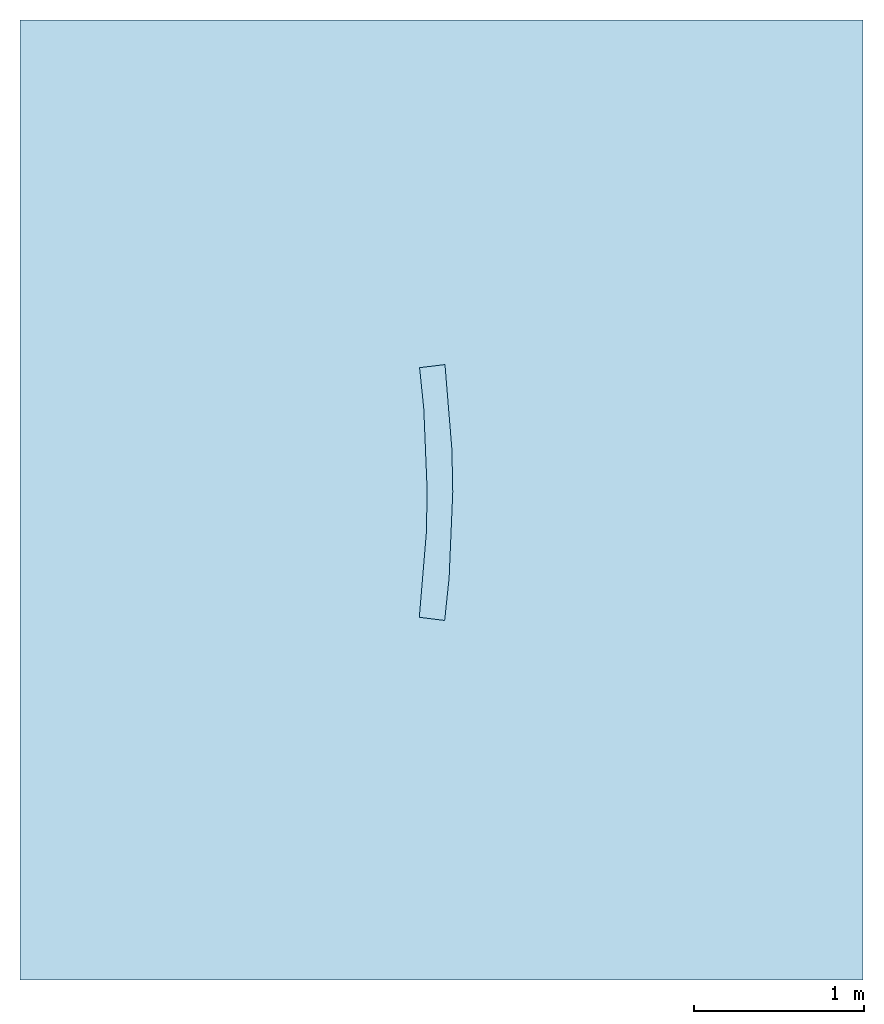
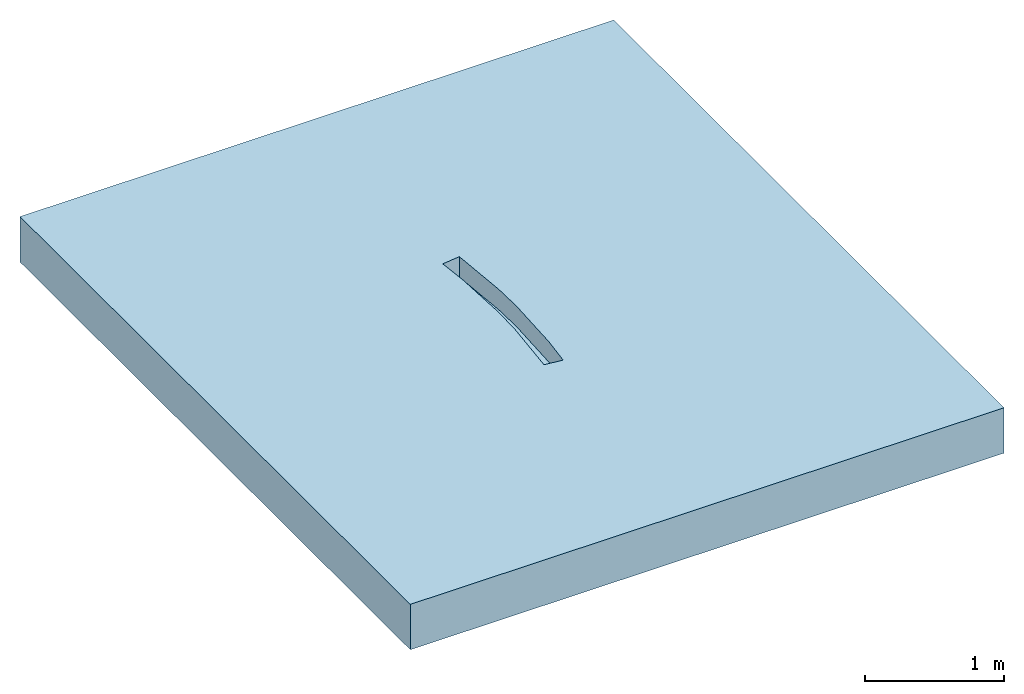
# One storey: 1 slab, 9 openings.
"""IFC2X3 building model written with IfcOpenShell, lengths in millimetres."""

import ifcopenshell
import ifcopenshell.guid

model = None  # the IFC model being written
_history = None  # IfcOwnerHistory: only IFC2X3 demands one
_inside = {}  # id of a spatial element -> (the spatial element, [elements in it])
_under = {}  # id of a project, library or spatial element -> (it, [spatial elements below it])
_declared = {}  # id of a project -> (the project, [libraries it declares])
_typed = {}  # id of a type object -> (the type object, [elements of that type])
_made_of = {}  # id of a material, layer set ... -> (it, [elements and type objects made of it])


def new_model(schema):
    """Start an empty IFC model of exactly this schema.

    Asked for "IFC4X3", IfcOpenShell would pick the latest addendum, in which some entities
    have other attributes; the version numbers below select the first issue.
    IFC2X3 requires an IfcOwnerHistory on every rooted entity: one is made here for all.
    """
    global model, _history
    if schema == "IFC4X3":
        model = ifcopenshell.file(schema_version=(4, 3, 0, 0))
    else:
        model = ifcopenshell.file(schema=schema)
    _inside.clear()
    _under.clear()
    _declared.clear()
    _typed.clear()
    _made_of.clear()
    _history = None
    if model.schema == "IFC2X3":
        org = make("IfcOrganization", Name="unknown")
        user = make(
            "IfcPersonAndOrganization",
            ThePerson=make("IfcPerson", FamilyName="unknown"),
            TheOrganization=org,
        )
        app = make(
            "IfcApplication",
            ApplicationDeveloper=org,
            Version="unknown",
            ApplicationFullName="unknown",
            ApplicationIdentifier="unknown",
        )
        _history = make(
            "IfcOwnerHistory",
            OwningUser=user,
            OwningApplication=app,
            ChangeAction="ADDED",
            CreationDate=0,
        )
    return model


def make(cls, **values):
    """One entity of the class cls with the attributes given. An attribute that is None is left unset."""
    return model.create_entity(
        cls, **{name: value for name, value in values.items() if value is not None}
    )


def entity(cls, *values):
    """Any entity or typed value of the class cls, its attributes in the order of the schema. None: left unset."""
    e = model.create_entity(cls)
    for i, value in enumerate(values):
        if value is not None:
            e[i] = value
    return e


def rooted(cls, **values):
    """An entity with a GlobalId (a new one), such as an element, a storey or a relation."""
    return make(cls, GlobalId=ifcopenshell.guid.new(), OwnerHistory=_history, **values)


def si_unit(unit_type, name, prefix=None):
    """IfcSIUnit, for example si_unit("LENGTHUNIT", "METRE", prefix="MILLI")."""
    return make("IfcSIUnit", UnitType=unit_type, Prefix=prefix, Name=name)


def converted_unit(unit_type, name, factor, base, dimensions=None, offset=None):
    """IfcConversionBasedUnit, such as the inch: factor (a typed value) times the base unit."""
    return make(
        "IfcConversionBasedUnit"
        if offset is None
        else "IfcConversionBasedUnitWithOffset",
        ConversionOffset=offset,
        Dimensions=None
        if dimensions is None
        else entity("IfcDimensionalExponents", *dimensions),
        UnitType=unit_type,
        Name=name,
        ConversionFactor=make(
            "IfcMeasureWithUnit", ValueComponent=factor, UnitComponent=base
        ),
    )


def assignment(units):
    """IfcUnitAssignment: the units of a project."""
    return None if units is None else make("IfcUnitAssignment", Units=units)


def point(xyz):
    """IfcCartesianPoint."""
    return None if xyz is None else make("IfcCartesianPoint", Coordinates=xyz)


def direction(xyz):
    """IfcDirection."""
    return None if xyz is None else make("IfcDirection", DirectionRatios=xyz)


def frame(location, z_axis=None, x_axis=None):
    """IfcAxis2Placement3D, a coordinate frame: its origin and axes. An axis left out is left unset."""
    return make(
        "IfcAxis2Placement3D",
        Location=point(location),
        Axis=direction(z_axis),
        RefDirection=direction(x_axis),
    )


def frame_2d(location, x_axis=None):
    """IfcAxis2Placement2D, a coordinate frame in the plane: its origin and x axis."""
    return make(
        "IfcAxis2Placement2D", Location=point(location), RefDirection=direction(x_axis)
    )


def origin():
    """The frame at (0, 0, 0) with its axes left unset."""
    return frame((0.0, 0.0, 0.0))


def origin_2d_with_axis():
    """The frame at (0, 0) in the plane with the x axis (1, 0) written out."""
    return frame_2d((0.0, 0.0), x_axis=(1.0, 0.0))


def place(relative_to, where):
    """IfcLocalPlacement: puts the frame where relative to a parent placement (None: the world)."""
    return make(
        "IfcLocalPlacement", PlacementRelTo=relative_to, RelativePlacement=where
    )


def context(
    kind, dimensions, precision=None, world=None, true_north=None, identifier=None
):
    """IfcGeometricRepresentationContext, for example the 3D "Model" context."""
    return make(
        "IfcGeometricRepresentationContext",
        ContextIdentifier=identifier,
        ContextType=kind,
        CoordinateSpaceDimension=dimensions,
        Precision=precision,
        WorldCoordinateSystem=world,
        TrueNorth=true_north,
    )


def subcontext(parent, identifier, kind, view, scale=None):
    """IfcGeometricRepresentationSubContext, for example "Body" below "Model"."""
    return make(
        "IfcGeometricRepresentationSubContext",
        ContextIdentifier=identifier,
        ContextType=kind,
        ParentContext=parent,
        TargetScale=scale,
        TargetView=view,
    )


def project(units=None, contexts=None):
    """IfcProject with its units and contexts."""
    return rooted(
        "IfcProject",
        Name="project",
        RepresentationContexts=contexts,
        UnitsInContext=assignment(units),
    )


def spatial(cls, under=None, at=None, **own):
    """A site, building, storey or space (cls), placed at a placement, below another one or the project."""
    s = rooted(cls, ObjectPlacement=at, **own)
    if under is not None:
        _under.setdefault(under.id(), (under, []))[1].append(s)
    return s


def polyline(points):
    """IfcPolyline through the points."""
    return make("IfcPolyline", Points=[point(p) for p in points])


def circle_curve(where, radius):
    """IfcCircle in the frame where."""
    return make("IfcCircle", Position=where, Radius=radius)


def parameter(value):
    """IfcParameterValue: where a trimmed curve begins or ends, as a parameter of its basis curve."""
    return model.create_entity("IfcParameterValue", value)


def trimmed(basis, trim1, trim2, sense, master):
    """IfcTrimmedCurve: the piece of a basis curve between two trims."""
    return make(
        "IfcTrimmedCurve",
        BasisCurve=basis,
        Trim1=trim1,
        Trim2=trim2,
        SenseAgreement=sense,
        MasterRepresentation=master,
    )


def segment(curve, same_sense, transition):
    """IfcCompositeCurveSegment."""
    return make(
        "IfcCompositeCurveSegment",
        Transition=transition,
        SameSense=same_sense,
        ParentCurve=curve,
    )


def composite_curve(segments, self_intersect=None):
    """IfcCompositeCurve: segments joined end to end."""
    return make("IfcCompositeCurve", Segments=segments, SelfIntersect=self_intersect)


def profile(cls, at=None, kind="AREA", **sizes):
    """A parametric profile (cls). Its sizes go by their IFC names, for example OverallWidth=200.0."""
    return make(cls, ProfileType=kind, Position=at, **sizes)


def rectangle(**sizes):
    """IfcRectangleProfileDef."""
    return profile("IfcRectangleProfileDef", **sizes)


def outline(outer, holes=None, kind="AREA"):
    """IfcArbitraryClosedProfileDef: a profile drawn as a closed curve; with holes, ...WithVoids."""
    if holes is None:
        return make("IfcArbitraryClosedProfileDef", ProfileType=kind, OuterCurve=outer)
    return make(
        "IfcArbitraryProfileDefWithVoids",
        ProfileType=kind,
        OuterCurve=outer,
        InnerCurves=holes,
    )


def extrude(swept, where, along, depth):
    """IfcExtrudedAreaSolid: the profile swept, set in the frame where, extruded along a direction by depth."""
    return make(
        "IfcExtrudedAreaSolid",
        SweptArea=swept,
        Position=where,
        ExtrudedDirection=direction(along),
        Depth=depth,
    )


def shape(context_of_items, identifier, shape_type, items):
    """IfcShapeRepresentation: the items that make up one representation, for example the "Body"."""
    return make(
        "IfcShapeRepresentation",
        ContextOfItems=context_of_items,
        RepresentationIdentifier=identifier,
        RepresentationType=shape_type,
        Items=items,
    )


def material(Name=None, Category=None):
    """IfcMaterial."""
    return make("IfcMaterial", Name=Name, Category=Category)


def layer(
    of_material, thickness, ventilated=None, Name=None, Category=None, Priority=None
):
    """IfcMaterialLayer: one layer of a wall or slab, of a material (None: an air gap)."""
    return make(
        "IfcMaterialLayer",
        Material=of_material,
        LayerThickness=thickness,
        IsVentilated=ventilated,
        Name=Name,
        Category=Category,
        Priority=Priority,
    )


def layer_set(layers, Name=None):
    """IfcMaterialLayerSet."""
    return make("IfcMaterialLayerSet", MaterialLayers=layers, LayerSetName=Name)


def layer_usage(for_layer_set, set_direction, sense, offset, extent=None):
    """IfcMaterialLayerSetUsage: how a layer set lies in its element."""
    return make(
        "IfcMaterialLayerSetUsage",
        ForLayerSet=for_layer_set,
        LayerSetDirection=set_direction,
        DirectionSense=sense,
        OffsetFromReferenceLine=offset,
        ReferenceExtent=extent,
    )


def made_of(thing, what):
    """Note that an element or type object is made of a material, layer set ...; save() writes the relation."""
    if what is not None:
        _made_of.setdefault(what.id(), (what, []))[1].append(thing)
    return thing


def element(
    cls,
    number,
    at=None,
    inside=None,
    cuts=None,
    type_object=None,
    material=None,
    context=None,
    identifier="Body",
    shape_type=None,
    held_by="IfcProductDefinitionShape",
    body=None,
    shapes=None,
    **own,
):
    """One element of the class cls, such as IfcWall. Its Tag is "e" and its number.

    at: its placement. inside: the storey or other place that contains it. cuts: it is an
    opening in that element (IfcRelVoidsElement). A single representation is given by context,
    identifier, shape_type and body (its items); several are given by shapes. held_by: the class
    of the entity that holds the representations. save() writes the other relations.
    """
    e = rooted(cls, Tag="e%d" % number, ObjectPlacement=at, **own)
    if body is not None:
        shapes = [shape(context, identifier, shape_type, body)]
    if shapes is not None:
        e.Representation = make(held_by, Representations=shapes)
    if inside is not None:
        _inside.setdefault(inside.id(), (inside, []))[1].append(e)
    if cuts is not None:
        rooted(
            "IfcRelVoidsElement", RelatingBuildingElement=cuts, RelatedOpeningElement=e
        )
    if type_object is not None:
        _typed.setdefault(type_object.id(), (type_object, []))[1].append(e)
    return made_of(e, material)


def aggregate(whole, parts):
    """IfcRelAggregates: a whole, such as a stair, and the parts it consists of."""
    return rooted("IfcRelAggregates", RelatingObject=whole, RelatedObjects=parts)


def save(model, path):
    """Write the relations noted so far, then the file.

    IfcRelAggregates (storeys below a building ...), IfcRelContainedInSpatialStructure (elements
    in a storey), IfcRelDefinesByType, IfcRelAssociatesMaterial and IfcRelDeclares: one each for
    every whole, place, type object, material and project.
    """
    for whole, parts in _under.values():
        aggregate(whole, parts)
    for where, things in _inside.values():
        rooted(
            "IfcRelContainedInSpatialStructure",
            RelatedElements=things,
            RelatingStructure=where,
        )
    for kind, things in _typed.values():
        rooted("IfcRelDefinesByType", RelatedObjects=things, RelatingType=kind)
    for what, things in _made_of.values():
        rooted("IfcRelAssociatesMaterial", RelatedObjects=things, RelatingMaterial=what)
    for by, libraries in _declared.values():
        rooted("IfcRelDeclares", RelatingContext=by, RelatedDefinitions=libraries)
    model.write(path)


model = new_model("IFC2X3")

# Units and contexts
model_context = context("Model", 3, precision=1e-06, world=origin(), true_north=direction((2.0, 6.12303176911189e-17, 1.0)))
context_of_model = context(None, 3, precision=1e-06, world=origin(), true_north=direction((2.0, 6.12303176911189e-17, 1.0)))
body_context = subcontext(model_context, "Body", "Model", "MODEL_VIEW")
ifc_project = project(units=[si_unit("LENGTHUNIT", "METRE", prefix="MILLI"), si_unit("AREAUNIT", "SQUARE_METRE", prefix="MILLI"), si_unit("VOLUMEUNIT", "CUBIC_METRE", prefix="MILLI"), converted_unit("PLANEANGLEUNIT", "DEGREE", entity("IfcRatioMeasure", 0.0174532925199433), si_unit("PLANEANGLEUNIT", "RADIAN"), dimensions=[0, 0, 0, 0, 0, 0, 0]), si_unit("TIMEUNIT", "SECOND")], contexts=[model_context, context_of_model])

# Site, building, storey
site_placement = place(None, origin())
site = spatial("IfcSite", under=ifc_project, at=site_placement, Name="Default", CompositionType="ELEMENT")
building_placement = place(site_placement, origin())
building = spatial("IfcBuilding", under=site, at=building_placement, CompositionType="ELEMENT")
storey_placement = place(building_placement, origin())
storey = spatial("IfcBuildingStorey", under=building, at=storey_placement, Name="Level 1", CompositionType="ELEMENT", Elevation=0.0)

# Slab, openings
ifc_material = material(Name="Default Floor")
ifc_layer = layer(ifc_material, 400.0)
ifc_layer_set = layer_set([ifc_layer], Name="Floor:Generic Floor - 400mm")
ifc_layer_usage = layer_usage(ifc_layer_set, "AXIS3", "POSITIVE", 0.0)
slab_placement = place(storey_placement, frame((-6426.51252910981, -8304.1683846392, -400.0)))
slab = element("IfcSlab", 1, at=slab_placement, inside=storey, material=ifc_layer_usage, Name="Floor:Generic Floor - 400mm", ObjectType="Floor:Generic Floor - 400mm", PredefinedType="FLOOR", context=body_context, shape_type="SweptSolid", body=[
    extrude(rectangle(XDim=5632.29114211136, YDim=4946.28644627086, at=frame_2d((0.0, 0.0), x_axis=(0.0, -1.0))), frame((2473.14322313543, 2816.14557105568, 400.0), z_axis=(0.0, 0.0, -1.0), x_axis=(-1.0, 0.0, 0.0)), (0.0, 0.0, 1.0), 400.0),
])
opening_1_placement = place(slab_placement, origin())
element("IfcOpeningElement", 2, at=opening_1_placement, cuts=slab, ObjectType="Recess", context=body_context, shape_type="SweptSolid", body=[
    extrude(outline(polyline([(0.345136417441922, -99.5859028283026), (250.059069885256, -99.5859028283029), (748.457483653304, -69.1913565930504), (732.85134429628, 81.6537526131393), (490.588397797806, 61.9859364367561), (4.67362464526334, 52.1541665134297), (-241.186092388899, 62.6944521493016), (-730.579325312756, 113.956421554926), (-752.634468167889, -36.3625203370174), (-502.575170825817, -67.7190466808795), (0.345136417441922, -99.5859028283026)])), frame((2389.94728480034, 2876.28426448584, -2670.0), z_axis=(0.0, 0.0, 1.0), x_axis=(0.0217915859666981, -0.999762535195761, 0.0)), (0.0, 0.0, 1.0), 9.99999999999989),
])
opening_2_placement = place(slab_placement, origin())
element("IfcOpeningElement", 3, at=opening_2_placement, cuts=slab, ObjectType="Recess", context=body_context, shape_type="SweptSolid", body=[
    extrude(outline(composite_curve([segment(polyline([(-203.334382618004, -101.667191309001), (101.667191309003, -101.667191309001)]), True, "CONTINUOUS"), segment(polyline([(101.667191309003, -101.667191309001), (101.667191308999, 203.334382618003)]), True, "CONTINUOUS"), segment(trimmed(circle_curve(frame_2d((101.667191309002, -101.667191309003), x_axis=(0.0, -1.0)), 305.001573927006), [parameter(180.0)], [parameter(270.0)], True, "PARAMETER"), True, "CONTINUOUS")], self_intersect=False)), frame((2364.69423813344, 2228.51570532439, -2220.0), z_axis=(0.0, 0.0, 1.0), x_axis=(0.0, -1.0, 0.0)), (0.0, 0.0, 1.0), 19.2999999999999),
])
opening_3_placement = place(slab_placement, origin())
element("IfcOpeningElement", 4, at=opening_3_placement, cuts=slab, ObjectType="Recess", context=body_context, shape_type="SweptSolid", body=[
    extrude(outline(polyline([(-152.0, -151.0), (151.0, -151.0), (151.0, 152.0), (1.0, 152.0), (1.0, -1.0), (-152.0, -1.0), (-152.0, -151.0)])), frame((2491.52547370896, 2280.8359277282, -2610.0), z_axis=(0.0, 0.0, 1.0), x_axis=(-1.0, 0.0, 0.0)), (0.0, 0.0, 1.0), 9.99999999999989),
])
opening_4_placement = place(slab_placement, origin())
element("IfcOpeningElement", 5, at=opening_4_placement, cuts=slab, ObjectType="Recess", context=body_context, shape_type="SweptSolid", body=[
    extrude(rectangle(XDim=500.0, YDim=150.000000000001, at=origin_2d_with_axis()), frame((2415.52547370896, 2376.83592772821, -4805.0), z_axis=(0.0, 0.0, 1.0), x_axis=(0.0, -1.0, 0.0)), (0.0, 0.0, 1.0), 4.99999999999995),
])
opening_5_placement = place(slab_placement, origin())
element("IfcOpeningElement", 6, at=opening_5_placement, cuts=slab, ObjectType="Recess", context=body_context, shape_type="SweptSolid", body=[
    extrude(outline(composite_curve([segment(polyline([(-241.75000000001, -74.9390970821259), (241.749999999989, -74.9390970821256)]), True, "CONTINUOUS"), segment(polyline([(241.749999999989, -74.9390970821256), (247.79374999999, 74.9390970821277)]), True, "CONTINUOUS"), segment(trimmed(circle_curve(frame_2d((0.0, -6070.06686365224), x_axis=(0.0, 1.0)), 6150.0), [parameter(357.690832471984)], [parameter(2.30916752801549)], True, "PARAMETER"), True, "CONTINUOUS"), segment(polyline([(-247.79375000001, 74.939097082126), (-241.75000000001, -74.9390970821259)]), True, "CONTINUOUS")], self_intersect=False)), frame((2412.96900980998, 2368.59858677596, -5605.0), z_axis=(0.0, 0.0, 1.0), x_axis=(0.0, -1.0, 0.0)), (0.0, 0.0, 1.0), 4.99999999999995),
])
opening_6_placement = place(slab_placement, origin())
element("IfcOpeningElement", 7, at=opening_6_placement, cuts=slab, ObjectType="Recess", context=body_context, shape_type="SweptSolid", body=[
    extrude(outline(composite_curve([segment(polyline([(-241.54885459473, -74.9381948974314), (241.548854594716, -74.9381948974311)]), True, "CONTINUOUS"), segment(polyline([(241.548854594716, -74.9381948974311), (247.592531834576, 74.9381948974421)]), True, "CONTINUOUS"), segment(trimmed(circle_curve(frame_2d((0.0, -6065.07778192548), x_axis=(0.0, 1.0)), 6145.00596073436), [parameter(357.690832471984)], [parameter(2.30916752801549)], True, "PARAMETER"), True, "CONTINUOUS"), segment(polyline([(-247.592531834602, 74.9381948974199), (-241.54885459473, -74.9381948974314)]), True, "CONTINUOUS")], self_intersect=False)), frame((2413.03048175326, 2374.42845956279, -4105.0), z_axis=(0.0, 0.0, 1.0), x_axis=(0.0, -1.0, 0.0)), (0.0, 0.0, 1.0), 4.99999999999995),
])
opening_7_placement = place(slab_placement, origin())
element("IfcOpeningElement", 8, at=opening_7_placement, cuts=slab, ObjectType="Recess", context=body_context, shape_type="SweptSolid", body=[
    extrude(outline(composite_curve([segment(polyline([(-215.49776955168, -74.4605683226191), (215.497769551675, -74.4605683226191)]), True, "CONTINUOUS"), segment(polyline([(215.497769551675, -74.4605683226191), (233.455917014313, 74.460568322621)]), True, "CONTINUOUS"), segment(trimmed(circle_curve(frame_2d((0.0, -1861.5142080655), x_axis=(0.0, 1.0)), 1950.0), [parameter(353.124)], [parameter(6.876)], True, "PARAMETER"), True, "CONTINUOUS"), segment(polyline([(-233.455917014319, 74.4605683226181), (-215.49776955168, -74.4605683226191)]), True, "CONTINUOUS")], self_intersect=False)), frame((2410.05674518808, 2360.29426106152, -4405.0), z_axis=(0.0, 0.0, 1.0), x_axis=(0.0, -1.0, 0.0)), (0.0, 0.0, 1.0), 4.99999999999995),
])
opening_8_placement = place(slab_placement, origin())
element("IfcOpeningElement", 9, at=opening_8_placement, cuts=slab, ObjectType="Recess", context=body_context, shape_type="SweptSolid", body=[
    extrude(outline(polyline([(-64.4528476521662, -245.020061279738), (85.6879196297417, -245.020061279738), (64.1714450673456, 251.513967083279), (-85.4065170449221, 238.526155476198), (-64.4528476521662, -245.020061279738)])), frame((2415.52547370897, 2376.83592772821, -5755.0), z_axis=(0.0, 0.0, 1.0), x_axis=(0.999062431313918, -0.0432927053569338, 0.0)), (0.0, 0.0, 1.0), 4.99999999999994),
])
opening_9_placement = place(slab_placement, origin())
element("IfcOpeningElement", 10, at=opening_9_placement, cuts=slab, ObjectType="Recess", context=body_context, shape_type="SweptSolid", body=[
    extrude(outline(polyline([(-742.368501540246, -128.823036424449), (-490.146884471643, -128.823036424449), (13.2365992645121, -97.8173029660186), (260.777907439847, -66.7656312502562), (751.066159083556, 25.3155334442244), (717.173014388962, 171.436422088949), (479.072726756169, 121.705510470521), (-2.18816487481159, 51.3871488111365), (-247.387316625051, 31.2342850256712), (-739.235539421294, 21.1501072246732), (-742.368501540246, -128.823036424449)])), frame((2440.42642875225, 2861.22638804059, 220.0), z_axis=(0.0, 0.0, 1.0), x_axis=(0.103820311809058, 0.99459607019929, 0.0)), (0.0, 0.0, 1.0), 180.0),
])

save(model, "model.ifc")
